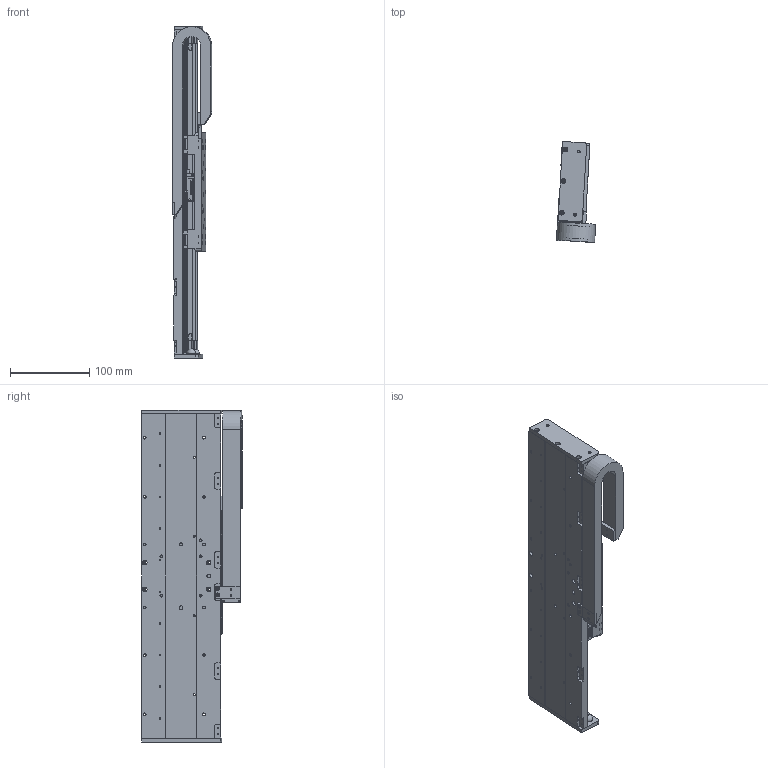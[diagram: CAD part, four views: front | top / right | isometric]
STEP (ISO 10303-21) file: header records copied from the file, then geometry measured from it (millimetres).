
FILE_DESCRIPTION(/* description */ (''),/* implementation_level */ '2;1');
FILE_NAME(/* name */ 'I:\FY15 Projects\MSR\MSR100\Web Step Models\mSR100L-250XLDXXXXXXCM13.stp',/* time_stamp */ '2015-02-18T13:25:13-05:00',/* author */ ('BF20108'),/* organization */ (''),/* preprocessor_version */ 'ST-DEVELOPER v15.2',/* originating_system */ 'Autodesk Inventor 2014',/* authorisation */ '');
FILE_SCHEMA (('AUTOMOTIVE_DESIGN { 1 0 10303 214 3 1 1 }'));
Products named in the file (18): 102-5710-07; 003-3562-39; 102-5702-06; ml18-120m-n; ml18-80m-n; 102-5703-01; 102-5705-01; 002-3740-07; 003-3561; 003-5000; 102-5708; ML18-5E; 002-3740-long-carriage-assy; mx100-mcb; mx100-scb; e045-16-018-carrier-10; 002-3740-cbl-carr-lc-03; 002-3740
Bounding box: 49.76 x 127.64 x 420 mm (x, y, z)
Volume: 763673.2 mm3; surface area: 353549.9 mm2
Topology: 25 solids, 26 shells, 2697 faces, 7231 edges, 4653 vertices
Faces by surface type: plane 1355, cylinder 995, cone 175, torus 160, bspline 8, sphere 4
Full cylindrical faces by diameter (mm): 0.5 x8, 1 x4, 1.567 x87, 1.588 x2, 2.007 x18, 2.013 x14, 2.135 x4, 2.4 x54, 2.459 x22, 2.5 x20, 2.642 x4, 2.75 x1, 3 x26, 3.242 x10, 3.4 x26, 3.505 x4, 4 x4, 4.17 x2, 4.2 x55, 4.5 x18, 5 x9, 5.08 x2, 6 x30, 11.176 x4
Entity records: 57189 total; most frequent: CARTESIAN_POINT 10714, DIRECTION 9649, ORIENTED_EDGE 8914, EDGE_CURVE 4445, AXIS2_PLACEMENT_3D 3420, VERTEX_POINT 3112, LINE 2809, VECTOR 2809
